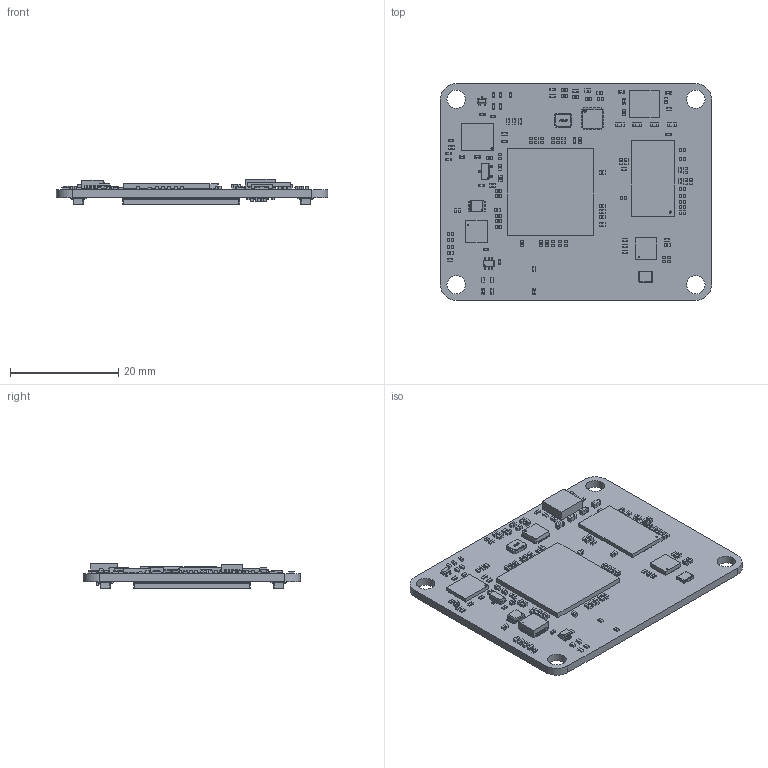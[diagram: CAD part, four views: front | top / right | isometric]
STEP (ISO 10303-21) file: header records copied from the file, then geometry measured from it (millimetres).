
FILE_DESCRIPTION(('KiCad electronic assembly'),'2;1');
FILE_NAME('xlm3201-400-01_module.step','2025-07-23T15:16:23',('Pcbnew'), ('Kicad'),'Open CASCADE STEP processor 7.6','KiCad to STEP converter', 'Unknown');
FILE_SCHEMA(('AUTOMOTIVE_DESIGN { 1 0 10303 214 1 1 1 1 }'));
Length unit declared in the file: millimetre
Products named in the file (1351): xlm3201-400-01_module 1; C_0402_1005Metric; R_0402_1005Metric; Solid1; Solid2; Solid3; SI5338_QFN24_SIL; MBT3904DW1T1G; LED_XZxx68x-2; NTA7002NT1G_SOT-416_1P65X0P9; C_0603_1608Metric; SOT-23; MT41K256M16TW_107_P_FBGA96_8X14_MRN; MICROCHIP_KSZ8081RNA_QFN24_4X4MC_MCH; EFINIX_FBGA_400; xlm3201-400-01_module 1.26.1; MPS_MPM54322; xlm3201-400-01_module 1.28.1; NEXPERIA_VSSOP8_SOT765-1; WINBOND_W25Q128JVPIQ; MICROCHIP_USB3343-CP-TR; ABM8-26.000MHZ-D1G-T; ECS-250-18-36-AGM-TR; DF40C-100DP; DF40C-100DP-0.4V; RNET_PAN_EXB-D10C470J; FB_0402_1005Metric; xlm3201_3202_module_PCB
Assembly tree (1494 placements, depth 3):
  xlm3201-400-01_module 1
    C_0402_1005Metric  x88
    R_0402_1005Metric  x47
      Solid1
      Solid2
      Solid2
      Solid3
    SI5338_QFN24_SIL
    MBT3904DW1T1G
    LED_XZxx68x-2  x4
    NTA7002NT1G_SOT-416_1P65X0P9
    C_0603_1608Metric  x4
    SOT-23
    MT41K256M16TW_107_P_FBGA96_8X14_MRN
    MICROCHIP_KSZ8081RNA_QFN24_4X4MC_MCH
    EFINIX_FBGA_400
      xlm3201-400-01_module 1.26.1
    MPS_MPM54322
      xlm3201-400-01_module 1.28.1
    NEXPERIA_VSSOP8_SOT765-1
    WINBOND_W25Q128JVPIQ
    MICROCHIP_USB3343-CP-TR
    ABM8-26.000MHZ-D1G-T
    ECS-250-18-36-AGM-TR
    DF40C-100DP  x4
      DF40C-100DP-0.4V
      DF40C-100DP-0.4V
      DF40C-100DP-0.4V
      DF40C-100DP-0.4V
      DF40C-100DP-0.4V
      DF40C-100DP-0.4V
      DF40C-100DP-0.4V
      DF40C-100DP-0.4V
      DF40C-100DP-0.4V
      DF40C-100DP-0.4V
      DF40C-100DP-0.4V
      DF40C-100DP-0.4V
      DF40C-100DP-0.4V
      DF40C-100DP-0.4V
      DF40C-100DP-0.4V
      DF40C-100DP-0.4V
      DF40C-100DP-0.4V
      DF40C-100DP-0.4V
      DF40C-100DP-0.4V
      DF40C-100DP-0.4V
      DF40C-100DP-0.4V
      DF40C-100DP-0.4V
      DF40C-100DP-0.4V
      DF40C-100DP-0.4V
      DF40C-100DP-0.4V
      DF40C-100DP-0.4V
      DF40C-100DP-0.4V
      DF40C-100DP-0.4V
      DF40C-100DP-0.4V
      DF40C-100DP-0.4V
      DF40C-100DP-0.4V
      DF40C-100DP-0.4V
      DF40C-100DP-0.4V
      DF40C-100DP-0.4V
      DF40C-100DP-0.4V
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Bounding box: 50 x 40 x 4.61 mm (x, y, z)
Volume: 3489.8 mm3; surface area: 7347.4 mm2
Topology: 834 solids, 6126 shells, 12652 faces, 48630 edges, 42621 vertices
Faces by surface type: bspline 7156, plane 4949, cylinder 419, sphere 128
Full cylindrical faces by diameter (mm): 0.083 x1, 0.119 x1, 0.198 x1, 0.199 x1, 0.4 x1, 3.4 x4
Entity records: 165487 total; most frequent: CARTESIAN_POINT 56191, ORIENTED_EDGE 17796, EDGE_CURVE 12844, DIRECTION 12036, VERTEX_POINT 11245, B_SPLINE_CURVE_WITH_KNOTS 6505, LINE 4036, VECTOR 4036
